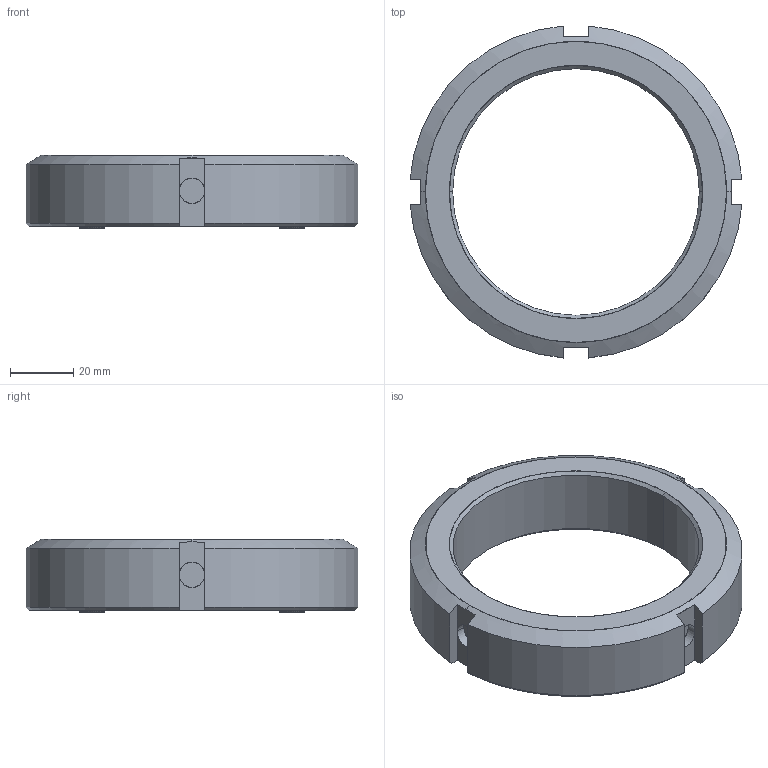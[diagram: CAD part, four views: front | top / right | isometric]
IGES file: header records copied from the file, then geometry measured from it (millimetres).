
Start section: SolidWorks IGES file using analytic representation for surfaces
Global section: file name: C:\Manufacturing Design Services\Taperline Manufacturing\Heavy Duty Lock Nut Inch and Metric\HTLNKM 16\HTLNKM 16.IGS; native system: SolidWorks 2010; preprocessor: SolidWorks 2010; author: ProBook; date: 110823.195111; units: millimetre
Bounding box: 104.7 x 104.7 x 23.25 mm (x, y, z)
Surface area: 28648.7 mm2 (no closed solid volume)
Topology: 0 solids, 0 shells, 238 faces, 5224 edges, 5224 vertices
Faces by surface type: revolution 164, bspline 74
